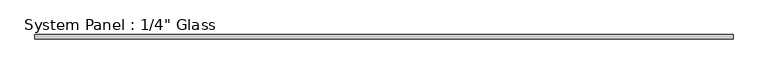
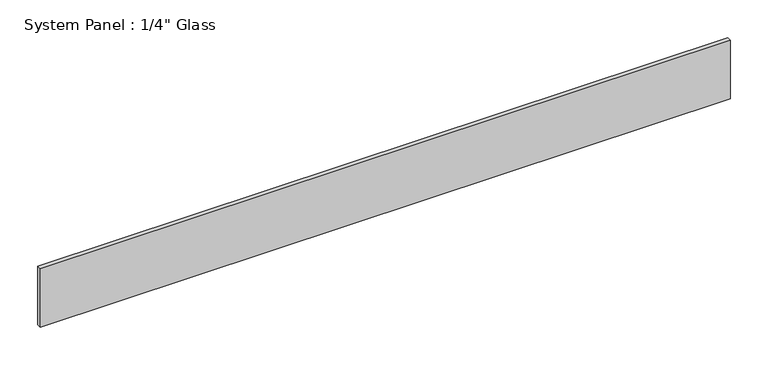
"""IFC4 building model written with IfcOpenShell, lengths in millimetres: plate geometry."""

from ifc_helpers import new_model, si_unit, origin, origin_with_axes, place, context, project, spatial, polyline, outline, extrude, source, transform, mapped, element, save


def plate_dc7cb12e(model_context):
    return source(origin(), model_context, "Body", "SweptSolid", [
        extrude(outline(polyline([(525.8680918, -3.175), (-525.8680918, -3.175), (-525.8680918, 3.175), (525.8680918, 3.175), (525.8680918, -3.175)])), origin_with_axes(), (0.0, 0.0, 1.0), 94.0923678),
    ])


if __name__ == "__main__":
    model = new_model("IFC4")
    model_context = context("Model", 3, world=origin())
    ifc_project = project(units=[si_unit("LENGTHUNIT", "METRE", prefix="MILLI")], contexts=[model_context])
    site = spatial("IfcSite", under=ifc_project)
    building = spatial("IfcBuilding", under=site)
    placement = place(None, origin())
    plate_shape = plate_dc7cb12e(model_context)
    element("IfcPlate", 1, ObjectType="System Panel : 1/4\" Glass", at=placement, inside=building, context=model_context, shape_type="MappedRepresentation", body=[
        mapped(plate_shape, transform((0.0, 0.0, 0.0), x_axis=(1.0, 0.0, 0.0), y_axis=(0.0, 1.0, 0.0), z_axis=(0.0, 0.0, 1.0))),
    ])
    save(model, "model.ifc")
